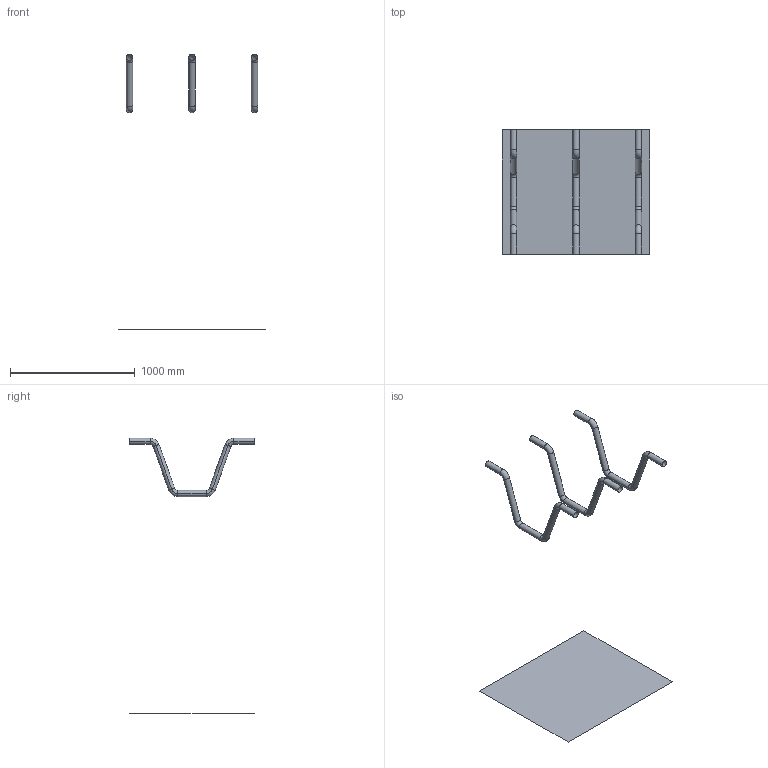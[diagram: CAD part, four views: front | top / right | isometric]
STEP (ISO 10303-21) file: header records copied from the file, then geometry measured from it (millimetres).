
FILE_DESCRIPTION(('CATIA V5 STEP Exchange'),'2;1');
FILE_NAME('C:\_Andres\UNIVERSIDAD\IQS\ASIGNATURAS\DAO\EXF\EXF-16172c\2inicio\Marinetto_Rohr_Ej08_v18.stp','2017-03-05T21:54:53+00:00',('none'),('none'),'CATIA Version 5-6 Release 2014 SP1 HF18','CATIA V5 STEP AP203','none');
FILE_SCHEMA(('CONFIG_CONTROL_DESIGN'));
Length unit declared in the file: millimetre
Products named in the file (1): Marinetto_Rohr_Ej08_v18
Bounding box: 1180 x 1000 x 2207 mm (x, y, z)
Surface area: 1911369.9 mm2 (no closed solid volume)
Topology: 0 solids, 4 shells, 55 faces, 118 edges, 64 vertices
Faces by surface type: cylinder 30, torus 24, plane 1
Entity records: 1283 total; most frequent: ORIENTED_EDGE 220, CARTESIAN_POINT 208, DIRECTION 168, EDGE_CURVE 118, AXIS2_PLACEMENT_3D 110, CIRCLE 84, VERTEX_POINT 64, ADVANCED_FACE 55
